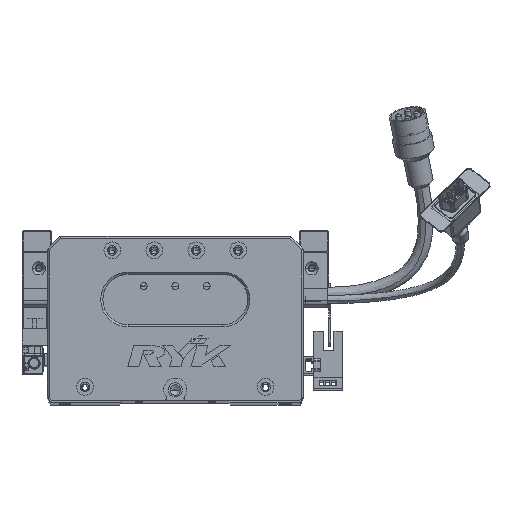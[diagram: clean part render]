
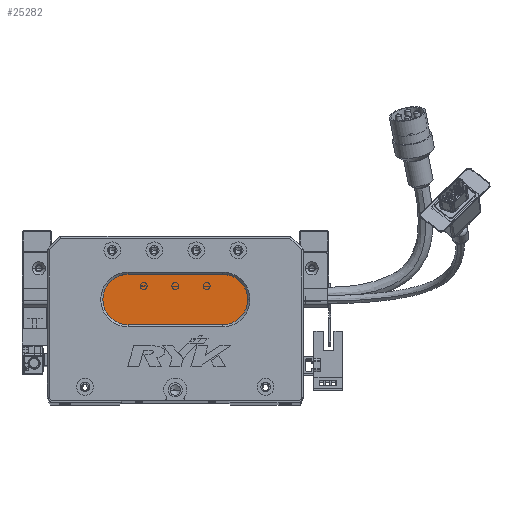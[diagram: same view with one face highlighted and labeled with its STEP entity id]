
A CAD part, top view. The second image highlights one B-rep face of the part: STEP entity #25282.
In plain terms, the highlighted planar face has unit normal (0, 0, 1) as drawn and (0, 0, -1) by its records, which use the part's own axes.
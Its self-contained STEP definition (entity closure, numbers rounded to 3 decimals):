
#1070 = EDGE_CURVE ( 'NONE', #62552, #20019, #44408, .T. ) ;
#2430 = ORIENTED_EDGE ( 'NONE', *, *, #17509, .T. ) ;
#4454 = VECTOR ( 'NONE', #73521, 1000. ) ;
#4507 = CIRCLE ( 'NONE', #41374, 12. ) ;
#5124 = CIRCLE ( 'NONE', #71446, 12. ) ;
#5969 = PLANE ( 'NONE',  #20088 ) ;
#7147 = LINE ( 'NONE', #29329, #4454 ) ;
#9295 = VERTEX_POINT ( 'NONE', #36781 ) ;
#13886 = VECTOR ( 'NONE', #54801, 1000. ) ;
#14574 = CARTESIAN_POINT ( 'NONE',  ( 83.5, 60., 13. ) ) ;
#15707 = ORIENTED_EDGE ( 'NONE', *, *, #52472, .T. ) ;
#16448 = DIRECTION ( 'NONE',  ( 0., 0., -1. ) ) ;
#17509 = EDGE_CURVE ( 'NONE', #41501, #63956, #7147, .T. ) ;
#19932 = FACE_OUTER_BOUND ( 'NONE', #25686, .T. ) ;
#20019 = VERTEX_POINT ( 'NONE', #30295 ) ;
#20088 = AXIS2_PLACEMENT_3D ( 'NONE', #46137, #56974, #28599 ) ;
#22995 = ORIENTED_EDGE ( 'NONE', *, *, #42921, .T. ) ;
#25282 = ADVANCED_FACE ( 'NONE', ( #19932 ), #5969, .T. ) ;
#25480 = DIRECTION ( 'NONE',  ( -1., 0., 0. ) ) ;
#25686 = EDGE_LOOP ( 'NONE', ( #22995, #27681, #15707, #33336, #2430 ) ) ;
#27681 = ORIENTED_EDGE ( 'NONE', *, *, #1070, .T. ) ;
#28599 = DIRECTION ( 'NONE',  ( -1., 0., 0. ) ) ;
#28726 = CIRCLE ( 'NONE', #69482, 12. ) ;
#28834 = DIRECTION ( 'NONE',  ( 0., 0., -1. ) ) ;
#29021 = DIRECTION ( 'NONE',  ( -1., 0., 0. ) ) ;
#29329 = CARTESIAN_POINT ( 'NONE',  ( 83.5, 60., 13. ) ) ;
#30295 = CARTESIAN_POINT ( 'NONE',  ( 38.5, 36., 13. ) ) ;
#33336 = ORIENTED_EDGE ( 'NONE', *, *, #59475, .T. ) ;
#36781 = CARTESIAN_POINT ( 'NONE',  ( 26.5, 48., 13. ) ) ;
#37026 = CARTESIAN_POINT ( 'NONE',  ( 83.5, 36., 13. ) ) ;
#37304 = CARTESIAN_POINT ( 'NONE',  ( 83.5, 48., 13. ) ) ;
#40021 = CARTESIAN_POINT ( 'NONE',  ( 38.5, 60., 13. ) ) ;
#41374 = AXIS2_PLACEMENT_3D ( 'NONE', #51438, #28834, #44887 ) ;
#41501 = VERTEX_POINT ( 'NONE', #40021 ) ;
#42921 = EDGE_CURVE ( 'NONE', #63956, #62552, #5124, .T. ) ;
#44408 = LINE ( 'NONE', #37026, #13886 ) ;
#44887 = DIRECTION ( 'NONE',  ( -1., 0., 0. ) ) ;
#46137 = CARTESIAN_POINT ( 'NONE',  ( 83.5, 48., 13. ) ) ;
#49694 = CARTESIAN_POINT ( 'NONE',  ( 83.5, 36., 13. ) ) ;
#51438 = CARTESIAN_POINT ( 'NONE',  ( 38.5, 48., 13. ) ) ;
#52472 = EDGE_CURVE ( 'NONE', #20019, #9295, #28726, .T. ) ;
#54801 = DIRECTION ( 'NONE',  ( -1., 0., 0. ) ) ;
#56974 = DIRECTION ( 'NONE',  ( 0., 0., -1. ) ) ;
#59475 = EDGE_CURVE ( 'NONE', #9295, #41501, #4507, .T. ) ;
#62552 = VERTEX_POINT ( 'NONE', #49694 ) ;
#63956 = VERTEX_POINT ( 'NONE', #14574 ) ;
#69482 = AXIS2_PLACEMENT_3D ( 'NONE', #73744, #16448, #29021 ) ;
#71445 = DIRECTION ( 'NONE',  ( 0., 0., -1. ) ) ;
#71446 = AXIS2_PLACEMENT_3D ( 'NONE', #37304, #71445, #25480 ) ;
#73521 = DIRECTION ( 'NONE',  ( 1., 0., 0. ) ) ;
#73744 = CARTESIAN_POINT ( 'NONE',  ( 38.5, 48., 13. ) ) ;
